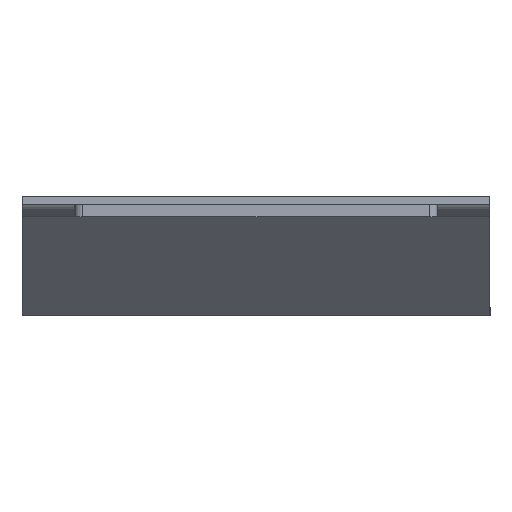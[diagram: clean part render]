
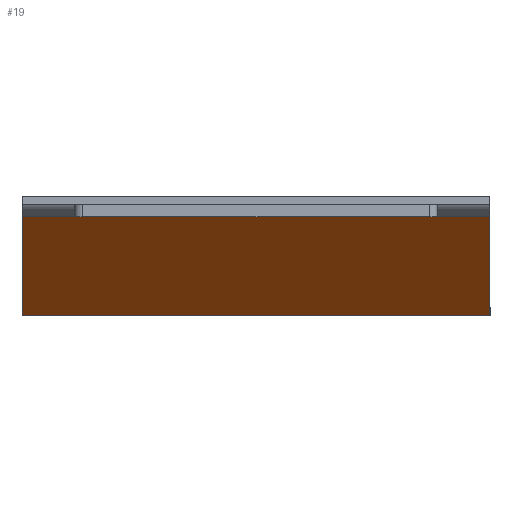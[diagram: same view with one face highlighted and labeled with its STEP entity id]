
A CAD part, left-side view. The second image highlights one B-rep face of the part: STEP entity #19.
In plain terms, the highlighted planar face has unit normal (-0.707, 0, -0.707).
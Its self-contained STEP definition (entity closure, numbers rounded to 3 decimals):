
#6 = LINE ( 'NONE', #267, #213 ) ;
#19 = ADVANCED_FACE ( 'NONE', ( #2270 ), #2353, .F. ) ;
#158 = EDGE_LOOP ( 'NONE', ( #617, #2486, #1184, #612 ) ) ;
#190 = VECTOR ( 'NONE', #849, 1000. ) ;
#213 = VECTOR ( 'NONE', #999, 1000. ) ;
#267 = CARTESIAN_POINT ( 'NONE',  ( 53.056, 181.738, 0. ) ) ;
#274 = EDGE_CURVE ( 'NONE', #2115, #396, #6, .T. ) ;
#396 = VERTEX_POINT ( 'NONE', #549 ) ;
#492 = CARTESIAN_POINT ( 'NONE',  ( 25.556, 181.738, 27.5 ) ) ;
#549 = CARTESIAN_POINT ( 'NONE',  ( 53.056, 2., 0. ) ) ;
#612 = ORIENTED_EDGE ( 'NONE', *, *, #274, .T. ) ;
#617 = ORIENTED_EDGE ( 'NONE', *, *, #2284, .T. ) ;
#747 = VECTOR ( 'NONE', #1955, 1000. ) ;
#817 = CARTESIAN_POINT ( 'NONE',  ( 28.485, 118., 24.571 ) ) ;
#820 = AXIS2_PLACEMENT_3D ( 'NONE', #492, #1190, #919 ) ;
#849 = DIRECTION ( 'NONE',  ( 0., 1., 0. ) ) ;
#919 = DIRECTION ( 'NONE',  ( 0.707, 0., -0.707 ) ) ;
#999 = DIRECTION ( 'NONE',  ( 0., -1., 0. ) ) ;
#1078 = LINE ( 'NONE', #1715, #190 ) ;
#1184 = ORIENTED_EDGE ( 'NONE', *, *, #2504, .T. ) ;
#1190 = DIRECTION ( 'NONE',  ( 0.707, 0., 0.707 ) ) ;
#1213 = CARTESIAN_POINT ( 'NONE',  ( 28.485, 2., 24.571 ) ) ;
#1254 = VERTEX_POINT ( 'NONE', #817 ) ;
#1715 = CARTESIAN_POINT ( 'NONE',  ( 28.485, 118., 24.571 ) ) ;
#1790 = CARTESIAN_POINT ( 'NONE',  ( 25.556, 2., 27.5 ) ) ;
#1904 = LINE ( 'NONE', #1790, #2948 ) ;
#1955 = DIRECTION ( 'NONE',  ( 0.707, 0., -0.707 ) ) ;
#2115 = VERTEX_POINT ( 'NONE', #2600 ) ;
#2182 = CARTESIAN_POINT ( 'NONE',  ( 25.556, 118., 27.5 ) ) ;
#2270 = FACE_OUTER_BOUND ( 'NONE', #158, .T. ) ;
#2284 = EDGE_CURVE ( 'NONE', #396, #2908, #1904, .T. ) ;
#2353 = PLANE ( 'NONE',  #820 ) ;
#2400 = LINE ( 'NONE', #2182, #747 ) ;
#2486 = ORIENTED_EDGE ( 'NONE', *, *, #2521, .T. ) ;
#2504 = EDGE_CURVE ( 'NONE', #1254, #2115, #2400, .T. ) ;
#2521 = EDGE_CURVE ( 'NONE', #2908, #1254, #1078, .T. ) ;
#2600 = CARTESIAN_POINT ( 'NONE',  ( 53.056, 118., 0. ) ) ;
#2908 = VERTEX_POINT ( 'NONE', #1213 ) ;
#2948 = VECTOR ( 'NONE', #2952, 1000. ) ;
#2952 = DIRECTION ( 'NONE',  ( -0.707, 0., 0.707 ) ) ;
